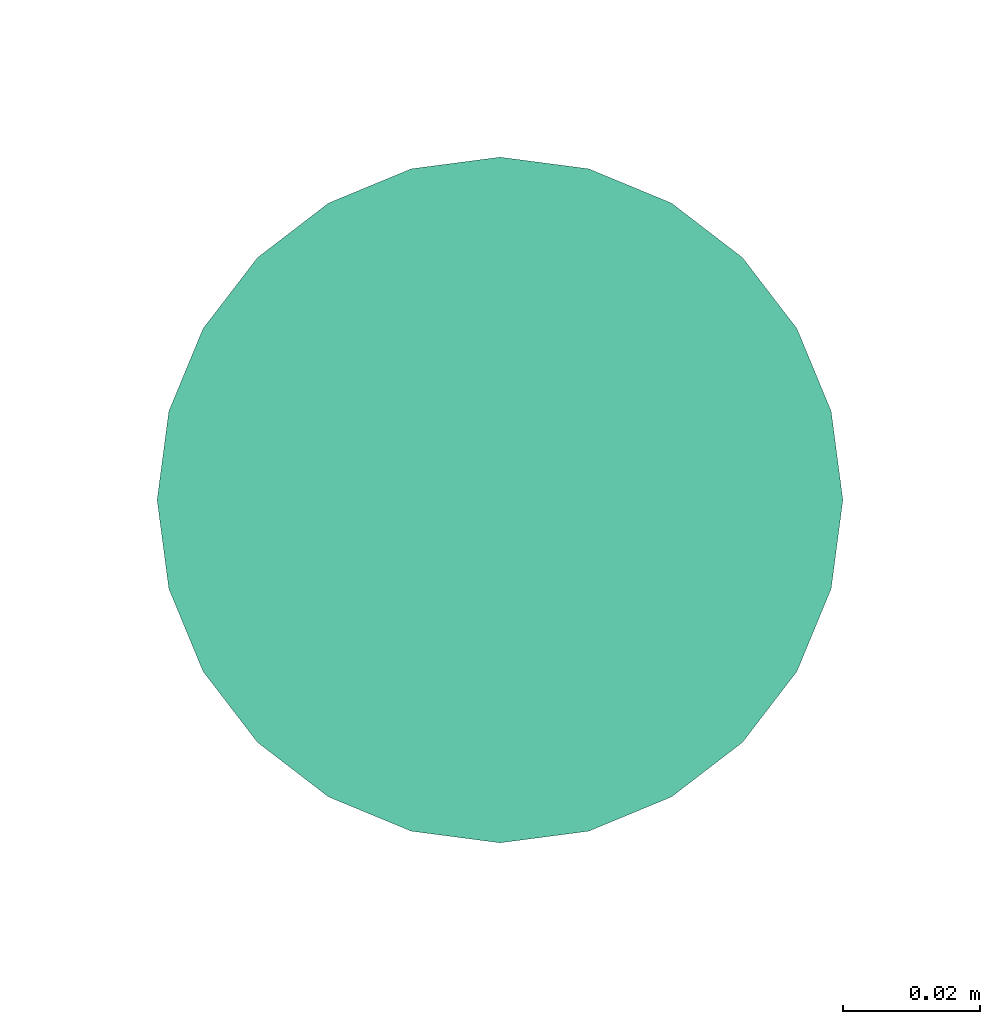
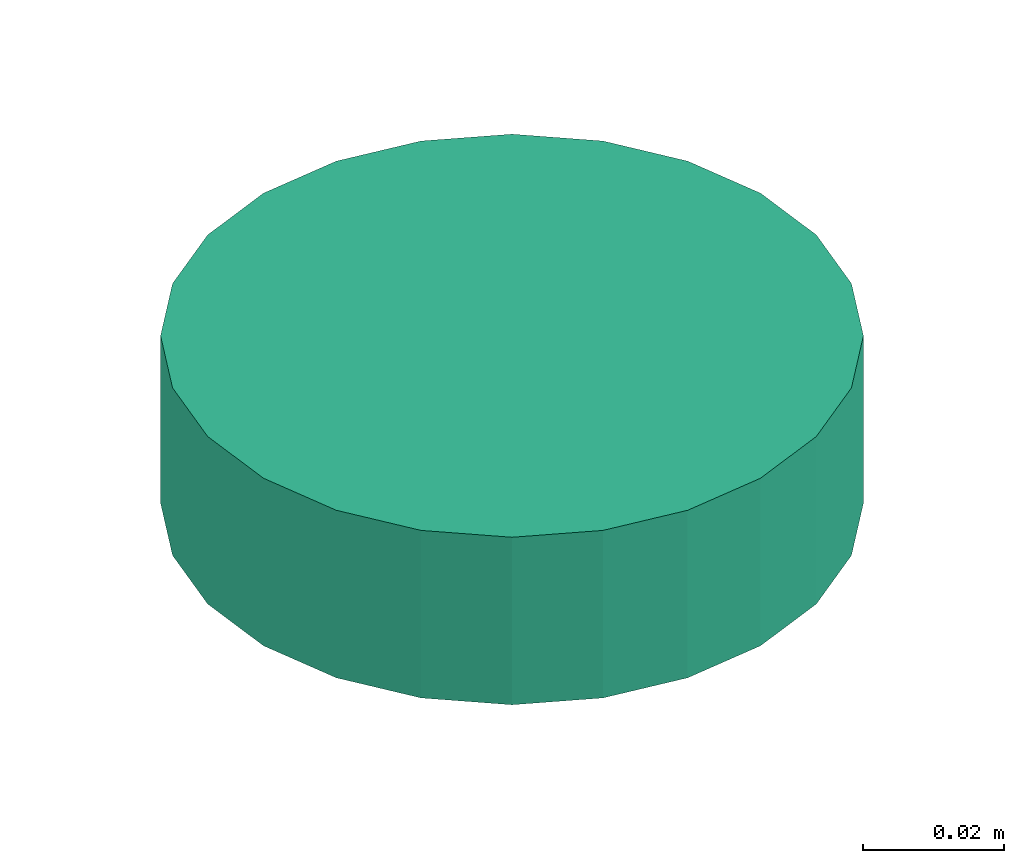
# One storey, part 7 of 22: 1 distribution control element.
"""IFC2X3 building model written with IfcOpenShell, lengths in millimetres."""

from ifc_helpers import new_model, entity, si_unit, converted_unit, derived_unit, direction, frame, origin_with_axes, place, context, subcontext, project, spatial, open_shell, surface_model, source, transform, mapped, type_object, element, save


model = new_model("IFC2X3")

# Units and contexts
model_context = context("Model", 3, precision=0.01, world=frame((0.0, 4.29681676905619e-09, 0.0)), true_north=direction((4.01073788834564e-13, 1.0)))
plan_context = context("Plan", 3, precision=0.01, world=frame((0.0, 4.29681676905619e-09, 0.0)), true_north=direction((4.01073788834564e-13, 1.0)))
body_context = subcontext(model_context, "Body", "Model", "MODEL_VIEW")
ifc_project = project(units=[converted_unit("PLANEANGLEUNIT", "DEGREE", entity("IfcPositiveLengthMeasure", 0.0174532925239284), si_unit("PLANEANGLEUNIT", "RADIAN"), dimensions=[0, 0, 0, 0, 0, 0, 0]), si_unit("AREAUNIT", "SQUARE_METRE"), si_unit("LENGTHUNIT", "METRE", prefix="MILLI"), si_unit("MASSUNIT", "GRAM", prefix="KILO"), si_unit("POWERUNIT", "WATT"), si_unit("PRESSUREUNIT", "PASCAL", prefix="KILO"), si_unit("FORCEUNIT", "NEWTON", prefix="KILO"), si_unit("ELECTRICVOLTAGEUNIT", "VOLT"), si_unit("ELECTRICCURRENTUNIT", "AMPERE"), si_unit("THERMODYNAMICTEMPERATUREUNIT", "DEGREE_CELSIUS"), si_unit("TIMEUNIT", "SECOND"), si_unit("VOLUMEUNIT", "CUBIC_METRE"), derived_unit("LINEARVELOCITYUNIT", [(si_unit("LENGTHUNIT", "METRE"), 1), (si_unit("TIMEUNIT", "SECOND"), -1)]), derived_unit("VOLUMETRICFLOWRATEUNIT", [(si_unit("VOLUMEUNIT", "CUBIC_METRE"), 1), (si_unit("TIMEUNIT", "SECOND"), -1)]), derived_unit("THERMALTRANSMITTANCEUNIT", [(si_unit("POWERUNIT", "WATT"), 1), (si_unit("THERMODYNAMICTEMPERATUREUNIT", "KELVIN"), -1), (si_unit("AREAUNIT", "SQUARE_METRE"), -1)]), derived_unit("SOUNDPRESSUREUNIT", [(si_unit("PRESSUREUNIT", "PASCAL"), 1)])], contexts=[model_context, plan_context])

# Site, building, storey
site_placement = place(None, frame((0.0, -4.29681676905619e-09, 0.0), z_axis=(0.0, 0.0, 1.0), x_axis=(1.0, 0.0, 0.0)))
site = spatial("IfcSite", under=ifc_project, at=site_placement, Name="ENGM", CompositionType="ELEMENT")
building_placement = place(site_placement, frame((0.0, 4.29681676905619e-09, 0.0), z_axis=(0.0, 0.0, 1.0), x_axis=(1.0, 0.0, 0.0)))
building = spatial("IfcBuilding", under=site, at=building_placement, Name="TI", CompositionType="ELEMENT")
storey_placement = place(building_placement, frame((0.0, 0.0, 210900.0), z_axis=(0.0, 0.0, 1.0), x_axis=(1.0, 0.0, 0.0)))
storey = spatial("IfcBuildingStorey", under=building, at=storey_placement, Name="Nivå F", CompositionType="ELEMENT", Elevation=210900.0)

# Distribution control element
alarm_type = type_object("IfcAlarmType", Name="Brannalarm Røykdetektor under gulv", PredefinedType="NOTDEFINED")
shared_shape = source(origin_with_axes(), body_context, "Body", "SurfaceModel", [
    surface_model("IfcShellBasedSurfaceModel", [(-25.0, 43.30127, -28.9), (-35.35534, 35.35534, -28.9), (-18.0, 31.17691, -28.9), (-25.45584, 25.45584, -28.9), (-9.31749, 34.77333, -28.9), (-12.94095, 48.29629, -28.9), (0.0, 36.0, -28.9), (0.0, 50.0, -28.9), (-34.77333, 9.31749, -28.9), (-43.30127, 25.0, -28.9), (-48.29629, 12.94095, -28.9), (-36.0, 0.0, -28.9), (-50.0, 0.0, -28.9), (-31.17691, 18.0, -28.9), (9.31749, 34.77333, -28.9), (12.94095, 48.29629, -28.9), (18.0, 31.17691, -28.9), (35.35534, 35.35534, -28.9), (25.0, 43.30127, -28.9), (25.45584, 25.45584, -28.9), (31.17691, 18.0, -28.9), (34.77333, 9.31749, -28.9), (43.30127, 25.0, -28.9), (48.29629, 12.94095, -28.9), (36.0, 0.0, -28.9), (50.0, 0.0, -28.9), (-34.77333, -9.31749, -28.9), (-48.29629, -12.94095, -28.9), (-31.17691, -18.0, -28.9), (-43.30127, -25.0, -28.9), (-25.45584, -25.45584, -28.9), (-35.35534, -35.35534, -28.9), (-18.0, -31.17691, -28.9), (-25.0, -43.30127, -28.9), (-9.31749, -34.77333, -28.9), (-12.94095, -48.29629, -28.9), (0.0, -36.0, -28.9), (0.0, -50.0, -28.9), (43.30127, -25.0, -28.9), (31.17691, -18.0, -28.9), (35.35534, -35.35534, -28.9), (34.77333, -9.31749, -28.9), (48.29629, -12.94095, -28.9), (25.45584, -25.45584, -28.9), (9.31749, -34.77333, -28.9), (12.94095, -48.29629, -28.9), (18.0, -31.17691, -28.9), (25.0, -43.30127, -28.9), (-25.0, -43.30127, -29.1), (-35.35534, -35.35534, -29.1), (-18.0, -31.17691, -29.1), (-25.45584, -25.45584, -29.1), (-9.31749, -34.77333, -29.1), (-12.94095, -48.29629, -29.1), (0.0, -36.0, -29.1), (0.0, -50.0, -29.1), (-34.77333, -9.31749, -29.1), (-43.30127, -25.0, -29.1), (-48.29629, -12.94095, -29.1), (-36.0, 0.0, -29.1), (-50.0, 0.0, -29.1), (-31.17691, -18.0, -29.1), (9.31749, -34.77333, -29.1), (12.94095, -48.29629, -29.1), (18.0, -31.17691, -29.1), (35.35534, -35.35534, -29.1), (25.0, -43.30127, -29.1), (25.45584, -25.45584, -29.1), (31.17691, -18.0, -29.1), (34.77333, -9.31749, -29.1), (43.30127, -25.0, -29.1), (48.29629, -12.94095, -29.1), (36.0, 0.0, -29.1), (50.0, 0.0, -29.1), (-34.77333, 9.31749, -29.1), (-48.29629, 12.94095, -29.1), (-31.17691, 18.0, -29.1), (-43.30127, 25.0, -29.1), (-25.45584, 25.45584, -29.1), (-35.35534, 35.35534, -29.1), (-18.0, 31.17691, -29.1), (-25.0, 43.30127, -29.1), (-9.31749, 34.77333, -29.1), (-12.94095, 48.29629, -29.1), (0.0, 36.0, -29.1), (0.0, 50.0, -29.1), (43.30127, 25.0, -29.1), (31.17691, 18.0, -29.1), (35.35534, 35.35534, -29.1), (34.77333, 9.31749, -29.1), (48.29629, 12.94095, -29.1), (25.45584, 25.45584, -29.1), (9.31749, 34.77333, -29.1), (12.94095, 48.29629, -29.1), (18.0, 31.17691, -29.1), (25.0, 43.30127, -29.1), (6.47048, -24.14815, -44.9), (12.5, -21.65064, -44.9), (17.67767, -17.67767, -44.9), (24.14815, -6.47048, -44.9), (-24.14815, -6.47048, -44.9), (21.65064, -12.5, -44.9), (-21.65064, 12.5, -44.9), (0.0, -25.0, -44.9), (-12.5, -21.65064, -44.9), (-6.47048, -24.14815, -44.9), (-17.67767, -17.67767, -44.9), (-21.65064, -12.5, -44.9), (25.0, 0.0, -44.9), (24.14815, 6.47048, -44.9), (21.65064, 12.5, -44.9), (17.67767, 17.67767, -44.9), (12.5, 21.65064, -44.9), (6.47048, 24.14815, -44.9), (0.0, 25.0, -44.9), (-25.0, 0.0, -44.9), (-24.14815, 6.47048, -44.9), (-12.5, 21.65064, -44.9), (-17.67767, 17.67767, -44.9), (-6.47048, 24.14815, -44.9), (0.0, 25.0, -45.1), (6.47048, 24.14815, -45.1), (12.5, 21.65064, -45.1), (-21.65064, 12.5, -45.1), (17.67767, 17.67767, -45.1), (21.65064, 12.5, -45.1), (24.14815, 6.47048, -45.1), (-12.5, 21.65064, -45.1), (-17.67767, 17.67767, -45.1), (-6.47048, 24.14815, -45.1), (-25.0, 0.0, -45.1), (-24.14815, 6.47048, -45.1), (-24.14815, -6.47048, -45.1), (24.14815, -6.47048, -45.1), (6.47048, -24.14815, -45.1), (21.65064, -12.5, -45.1), (17.67767, -17.67767, -45.1), (12.5, -21.65064, -45.1), (-12.5, -21.65064, -45.1), (-17.67767, -17.67767, -45.1), (-21.65064, -12.5, -45.1), (0.0, -25.0, -45.1), (-6.47048, -24.14815, -45.1), (25.0, 0.0, -45.1), (-1.46739, 34.60682, -29.0), (0.0, 34.8, -29.0), (0.0, 35.0, -29.0), (-34.60682, 1.46739, -29.0), (-35.0, 0.0, -29.0), (-34.8, 0.0, -29.0), (-17.5, 30.31089, -29.0), (-18.5742, 29.23669, -29.0), (-17.4, 30.13768, -29.0), (-24.60732, -24.60732, -29.0), (-18.5742, -29.23669, -29.0), (-29.23669, -18.5742, -29.0), (34.8, 0.0, -29.0), (34.60682, -1.46739, -29.0), (35.0, 0.0, -29.0), (17.4, 30.13768, -29.0), (17.5, 30.31089, -29.0), (16.03261, 30.70407, -29.0), (30.13768, 17.4, -29.0), (30.31089, 17.5, -29.0), (29.23669, 18.5742, -29.0), (34.60682, 1.46739, -29.0), (33.61422, -9.0069, -29.0), (30.70407, -16.03261, -29.0), (-33.61422, -9.0069, -29.0), (-30.70407, -16.03261, -29.0), (-34.60682, -1.46739, -29.0), (-30.13768, -17.4, -29.0), (-30.31089, -17.5, -29.0), (-17.5, -30.31089, -29.0), (-17.4, -30.13768, -29.0), (-1.46739, -34.60682, -29.0), (0.0, -35.0, -29.0), (0.0, -34.8, -29.0), (-16.03261, -30.70407, -29.0), (-9.0069, -33.61422, -29.0), (1.46739, -34.60682, -29.0), (30.13768, -17.4, -29.0), (29.23669, -18.5742, -29.0), (30.31089, -17.5, -29.0), (24.60732, -24.60732, -29.0), (18.5742, -29.23669, -29.0), (9.0069, -33.61422, -29.0), (16.03261, -30.70407, -29.0), (-30.13768, 17.4, -29.0), (-30.31089, 17.5, -29.0), (-30.70407, 16.03261, -29.0), (17.4, -30.13768, -29.0), (17.5, -30.31089, -29.0), (-33.61422, 9.0069, -29.0), (-29.23669, 18.5742, -29.0), (-24.60732, 24.60732, -29.0), (-16.03261, 30.70407, -29.0), (-9.0069, 33.61422, -29.0), (1.46739, 34.60682, -29.0), (9.0069, 33.61422, -29.0), (18.5742, 29.23669, -29.0), (24.60732, 24.60732, -29.0), (30.70407, 16.03261, -29.0), (33.61422, 9.0069, -29.0), (23.00389, 18.55381, -38.25), (14.9, 25.80756, -38.25), (21.07178, 21.07178, -38.25), (29.66376, 1.03484, -38.25), (30.0, 0.0, -38.25), (29.8, 0.0, -38.25), (24.27051, 17.63356, -38.25), (24.68215, 16.36666, -38.25), (10.52665, 27.61906, -38.25), (28.78459, 7.71281, -38.25), (-10.52665, 27.61906, -38.25), (-23.00389, 18.55381, -38.25), (-14.9, 25.80756, -38.25), (8.32335, 28.5317, -38.25), (0.0, 29.8, -38.25), (7.71281, 28.78459, -38.25), (-8.32335, 28.5317, -38.25), (-24.68215, 16.36666, -38.25), (-28.78459, 7.71281, -38.25), (-25.80756, 14.9, -38.25), (-9.27051, 28.5317, -38.25), (-29.66376, 1.03484, -38.25), (-29.8, 0.0, -38.25), (-30.0, 0.0, -38.25), (-28.78459, -7.71281, -38.25), (-24.68215, -16.36666, -38.25), (-25.80756, -14.9, -38.25), (29.66376, -1.03484, -38.25), (-7.71281, 28.78459, -38.25), (25.80756, 14.9, -38.25), (14.9, -25.80756, -38.25), (10.52665, -27.61906, -38.25), (23.00389, -18.55381, -38.25), (28.78459, -7.71281, -38.25), (24.68215, -16.36666, -38.25), (0.0, -29.8, -38.25), (-7.71281, -28.78459, -38.25), (-8.32335, -28.5317, -38.25), (8.32335, -28.5317, -38.25), (9.27051, 28.5317, -38.25), (-29.66376, -1.03484, -38.25), (21.07178, -21.07178, -38.25), (-23.00389, -18.55381, -38.25), (-24.27051, -17.63356, -38.25), (-9.27051, -28.5317, -38.25), (-10.52665, -27.61906, -38.25), (-21.07178, -21.07178, -38.25), (-14.9, -25.80756, -38.25), (9.27051, -28.5317, -38.25), (7.71281, -28.78459, -38.25), (24.27051, -17.63356, -38.25), (25.80756, -14.9, -38.25), (-21.07178, 21.07178, -38.25), (-24.27051, 17.63356, -38.25), (33.28589, -6.39713, -29.0), (27.13526, -8.81678, -38.25), (-16.77051, -23.08263, -38.25), (-23.90544, -23.90544, -29.0), (-27.13526, -8.81678, -38.25), (-33.28589, -6.39713, -29.0), (16.77051, -23.08263, -38.25), (8.75, -32.65544, -29.0), (0.0, -28.5317, -38.25), (23.90544, -23.90544, -29.0), (-8.75, -32.65544, -29.0), (-33.28589, 6.39713, -29.0), (-27.13526, 8.81678, -38.25), (16.77051, 23.08263, -38.25), (23.90544, 23.90544, -29.0), (27.13526, 8.81678, -38.25), (33.28589, 6.39713, -29.0), (-16.77051, 23.08263, -38.25), (-8.75, 32.65544, -29.0), (0.0, 28.5317, -38.25), (-23.90544, 23.90544, -29.0), (8.75, 32.65544, -29.0), (12.4, 21.47743, -45.0), (17.53625, 17.53625, -45.0), (19.07577, 15.5299, -45.0), (20.22543, 14.69463, -45.0), (20.59905, 13.54472, -45.0), (24.66376, 1.03484, -45.0), (25.0, 0.0, -45.0), (24.8, 0.0, -45.0), (8.88673, 22.93267, -45.0), (23.95496, 6.41871, -45.0), (-8.88673, 22.93267, -45.0), (-19.07577, 15.5299, -45.0), (-12.4, 21.47743, -45.0), (6.84976, 23.77641, -45.0), (0.0, 24.8, -45.0), (6.41871, 23.95496, -45.0), (-7.72542, 23.77641, -45.0), (-6.84976, 23.77641, -45.0), (-21.47743, 12.4, -45.0), (-20.59905, 13.54472, -45.0), (-23.95496, 6.41871, -45.0), (-25.0, 0.0, -45.0), (-24.66376, 1.03484, -45.0), (-24.8, 0.0, -45.0), (-23.95496, -6.41871, -45.0), (-20.59905, -13.54472, -45.0), (-21.47743, -12.4, -45.0), (-6.41871, 23.95496, -45.0), (24.66376, -1.03484, -45.0), (21.47743, 12.4, -45.0), (12.4, -21.47743, -45.0), (8.88673, -22.93267, -45.0), (19.07577, -15.5299, -45.0), (23.95496, -6.41871, -45.0), (20.59905, -13.54472, -45.0), (0.0, -24.8, -45.0), (-6.41871, -23.95496, -45.0), (-6.84976, -23.77641, -45.0), (7.72542, -23.77641, -45.0), (6.84976, -23.77641, -45.0), (7.72542, 23.77641, -45.0), (-24.66376, -1.03484, -45.0), (17.53625, -17.53625, -45.0), (-20.22543, -14.69463, -45.0), (-19.07577, -15.5299, -45.0), (-8.88673, -22.93267, -45.0), (-7.72542, -23.77641, -45.0), (-17.53625, -17.53625, -45.0), (-12.4, -21.47743, -45.0), (6.41871, -23.95496, -45.0), (20.22543, -14.69463, -45.0), (21.47743, -12.4, -45.0), (-17.53625, 17.53625, -45.0), (-20.22543, 14.69463, -45.0), (-22.61271, -7.34732, -45.0), (-13.97542, -19.23552, -45.0), (0.0, -23.77641, -45.0), (21.83768, -9.73262, -45.0), (13.97542, -19.23552, -45.0), (23.41884, -4.86631, -45.0), (22.61271, 7.34732, -45.0), (13.97542, 19.23552, -45.0), (0.0, 23.77641, -45.0), (-21.83768, 9.73262, -45.0), (-13.97542, 19.23552, -45.0), (-23.41884, 4.86631, -45.0), (12.94095, -48.29629, 0.0), (25.0, -43.30127, 0.0), (35.35534, -35.35534, 0.0), (48.29629, -12.94095, 0.0), (-48.29629, -12.94095, 0.0), (43.30127, -25.0, 0.0), (-43.30127, 25.0, 0.0), (0.0, -50.0, 0.0), (-25.0, -43.30127, 0.0), (-12.94095, -48.29629, 0.0), (-35.35534, -35.35534, 0.0), (-43.30127, -25.0, 0.0), (50.0, 0.0, 0.0), (48.29629, 12.94095, 0.0), (43.30127, 25.0, 0.0), (35.35534, 35.35534, 0.0), (25.0, 43.30127, 0.0), (12.94095, 48.29629, 0.0), (0.0, 50.0, 0.0), (-50.0, 0.0, 0.0), (-48.29629, 12.94095, 0.0), (-25.0, 43.30127, 0.0), (-35.35534, 35.35534, 0.0), (-12.94095, 48.29629, 0.0), (0.0, 50.0, -29.0), (12.94095, 48.29629, -29.0), (25.0, 43.30127, -29.0), (-43.30127, 25.0, -29.0), (35.35534, 35.35534, -29.0), (43.30127, 25.0, -29.0), (48.29629, 12.94095, -29.0), (-25.0, 43.30127, -29.0), (-35.35534, 35.35534, -29.0), (-12.94095, 48.29629, -29.0), (-50.0, 0.0, -29.0), (-48.29629, 12.94095, -29.0), (-48.29629, -12.94095, -29.0), (48.29629, -12.94095, -29.0), (12.94095, -48.29629, -29.0), (43.30127, -25.0, -29.0), (35.35534, -35.35534, -29.0), (25.0, -43.30127, -29.0), (-25.0, -43.30127, -29.0), (-35.35534, -35.35534, -29.0), (-43.30127, -25.0, -29.0), (0.0, -50.0, -29.0), (-12.94095, -48.29629, -29.0), (50.0, 0.0, -29.0)], [open_shell([[[0, 1, 2]], [[2, 1, 3]], [[0, 2, 4]], [[5, 4, 6]], [[4, 5, 0]], [[5, 6, 7]], [[8, 9, 10]], [[11, 10, 12]], [[8, 10, 11]], [[13, 3, 9]], [[8, 13, 9]], [[9, 3, 1]], [[7, 14, 15]], [[14, 7, 6]], [[15, 14, 16]], [[17, 18, 19]], [[16, 18, 15]], [[19, 18, 16]], [[20, 21, 22]], [[20, 22, 17]], [[21, 23, 22]], [[23, 21, 24]], [[23, 24, 25]], [[20, 17, 19]], [[26, 12, 27]], [[28, 27, 29]], [[28, 26, 27]], [[30, 28, 29]], [[29, 31, 30]], [[32, 31, 33]], [[31, 32, 30]], [[32, 33, 34]], [[34, 35, 36]], [[35, 34, 33]], [[36, 35, 37]], [[38, 39, 40]], [[41, 39, 42]], [[41, 42, 25]], [[42, 39, 38]], [[39, 43, 40]], [[25, 24, 41]], [[44, 37, 45]], [[37, 44, 36]], [[44, 45, 46]], [[47, 40, 43]], [[47, 46, 45]], [[47, 43, 46]], [[26, 11, 12]], [[48, 49, 50]], [[50, 49, 51]], [[48, 50, 52]], [[53, 52, 54]], [[52, 53, 48]], [[53, 54, 55]], [[56, 57, 58]], [[59, 58, 60]], [[56, 58, 59]], [[61, 51, 57]], [[56, 61, 57]], [[57, 51, 49]], [[55, 62, 63]], [[62, 55, 54]], [[63, 62, 64]], [[65, 66, 67]], [[64, 66, 63]], [[67, 66, 64]], [[68, 69, 70]], [[68, 70, 65]], [[69, 71, 70]], [[71, 69, 72]], [[71, 72, 73]], [[68, 65, 67]], [[74, 60, 75]], [[76, 75, 77]], [[76, 74, 75]], [[78, 76, 77]], [[77, 79, 78]], [[80, 79, 81]], [[79, 80, 78]], [[80, 81, 82]], [[82, 83, 84]], [[83, 82, 81]], [[84, 83, 85]], [[86, 87, 88]], [[89, 87, 90]], [[89, 90, 73]], [[90, 87, 86]], [[87, 91, 88]], [[73, 72, 89]], [[92, 85, 93]], [[85, 92, 84]], [[92, 93, 94]], [[95, 88, 91]], [[95, 94, 93]], [[95, 91, 94]], [[74, 59, 60]], [[11, 59, 8]], [[8, 74, 13]], [[2, 3, 78]], [[76, 3, 13]], [[4, 2, 80]], [[74, 76, 13]], [[8, 59, 74]], [[84, 6, 82]], [[4, 80, 82]], [[80, 2, 78]], [[3, 76, 78]], [[4, 82, 6]], [[14, 92, 16]], [[16, 94, 19]], [[21, 20, 87]], [[91, 20, 19]], [[24, 21, 89]], [[92, 94, 16]], [[14, 84, 92]], [[21, 87, 89]], [[87, 20, 91]], [[19, 94, 91]], [[24, 89, 72]], [[6, 84, 14]], [[24, 72, 41]], [[41, 69, 39]], [[46, 43, 67]], [[68, 43, 39]], [[44, 46, 64]], [[69, 68, 39]], [[41, 72, 69]], [[54, 36, 62]], [[44, 64, 62]], [[64, 46, 67]], [[43, 68, 67]], [[44, 62, 36]], [[34, 52, 32]], [[32, 50, 30]], [[26, 28, 61]], [[51, 28, 30]], [[11, 26, 56]], [[52, 50, 32]], [[34, 54, 52]], [[26, 61, 56]], [[61, 28, 51]], [[30, 50, 51]], [[11, 56, 59]], [[36, 54, 34]], [[58, 27, 60]], [[57, 29, 58]], [[33, 49, 48]], [[57, 49, 31]], [[35, 48, 53]], [[58, 29, 27]], [[27, 12, 60]], [[35, 33, 48]], [[31, 49, 33]], [[31, 29, 57]], [[37, 35, 53]], [[53, 55, 37]], [[63, 45, 55]], [[66, 47, 63]], [[38, 65, 70]], [[66, 65, 40]], [[42, 70, 71]], [[66, 40, 47]], [[47, 45, 63]], [[25, 42, 71]], [[38, 70, 42]], [[38, 40, 65]], [[73, 25, 71]], [[55, 45, 37]], [[90, 23, 73]], [[86, 22, 90]], [[18, 88, 95]], [[86, 88, 17]], [[15, 95, 93]], [[90, 22, 23]], [[23, 25, 73]], [[15, 18, 95]], [[17, 88, 18]], [[17, 22, 86]], [[7, 15, 93]], [[93, 85, 7]], [[83, 5, 85]], [[81, 0, 83]], [[9, 79, 77]], [[81, 79, 1]], [[10, 77, 75]], [[81, 1, 0]], [[0, 5, 83]], [[12, 10, 75]], [[9, 77, 10]], [[9, 1, 79]], [[60, 12, 75]], [[85, 5, 7]], [[96, 97, 98]], [[96, 98, 99]], [[96, 99, 100]], [[99, 98, 101]], [[102, 100, 99]], [[103, 104, 105]], [[103, 96, 104]], [[106, 100, 107]], [[106, 104, 96]], [[100, 106, 96]], [[99, 108, 102]], [[109, 110, 111]], [[109, 111, 112]], [[112, 113, 114]], [[109, 112, 102]], [[102, 112, 114]], [[115, 102, 116]], [[100, 102, 115]], [[102, 117, 118]], [[117, 102, 119]], [[114, 119, 102]], [[102, 108, 109]], [[120, 121, 122]], [[123, 120, 122]], [[124, 125, 126]], [[124, 126, 122]], [[123, 122, 126]], [[127, 123, 128]], [[123, 127, 129]], [[123, 130, 131]], [[123, 129, 120]], [[123, 132, 130]], [[123, 126, 133]], [[132, 123, 133]], [[134, 133, 135]], [[136, 137, 134]], [[136, 134, 135]], [[138, 133, 134]], [[132, 139, 140]], [[132, 133, 139]], [[138, 141, 142]], [[139, 133, 138]], [[134, 141, 138]], [[133, 126, 143]], [[132, 100, 130]], [[140, 107, 132]], [[104, 139, 138]], [[140, 139, 106]], [[105, 138, 142]], [[132, 107, 100]], [[100, 115, 130]], [[105, 104, 138]], [[106, 139, 104]], [[106, 107, 140]], [[103, 105, 142]], [[142, 141, 103]], [[134, 96, 141]], [[137, 97, 134]], [[101, 136, 135]], [[137, 136, 98]], [[99, 135, 133]], [[137, 98, 97]], [[97, 96, 134]], [[108, 99, 133]], [[101, 135, 99]], [[101, 98, 136]], [[143, 108, 133]], [[141, 96, 103]], [[126, 109, 143]], [[125, 110, 126]], [[112, 124, 122]], [[125, 124, 111]], [[113, 122, 121]], [[126, 110, 109]], [[109, 108, 143]], [[113, 112, 122]], [[111, 124, 112]], [[111, 110, 125]], [[114, 113, 121]], [[121, 120, 114]], [[129, 119, 120]], [[127, 117, 129]], [[102, 128, 123]], [[127, 128, 118]], [[116, 123, 131]], [[127, 118, 117]], [[117, 119, 129]], [[115, 116, 131]], [[102, 123, 116]], [[102, 118, 128]], [[130, 115, 131]], [[120, 119, 114]], [[144, 145, 146]], [[147, 148, 149]], [[150, 151, 152]], [[153, 154, 155]], [[156, 157, 158]], [[159, 160, 161]], [[162, 163, 164]], [[156, 158, 165]], [[166, 157, 167]], [[168, 169, 170]], [[170, 149, 148]], [[171, 169, 172]], [[173, 174, 154]], [[175, 176, 177]], [[174, 173, 178]], [[155, 171, 172]], [[179, 175, 178]], [[180, 177, 176]], [[181, 182, 183]], [[181, 183, 167]], [[184, 182, 185]], [[186, 187, 180]], [[188, 189, 190]], [[191, 192, 185]], [[191, 187, 192]], [[193, 147, 190]], [[188, 194, 189]], [[195, 194, 151]], [[152, 196, 150]], [[197, 196, 144]], [[145, 198, 146]], [[199, 198, 161]], [[159, 200, 160]], [[201, 200, 164]], [[162, 202, 163]], [[203, 202, 165]], [[204, 205, 206]], [[207, 208, 209]], [[204, 210, 211]], [[205, 204, 212]], [[213, 207, 211]], [[214, 215, 216]], [[217, 218, 219]], [[218, 217, 220]], [[221, 222, 223]], [[220, 214, 224]], [[225, 226, 227]], [[228, 229, 230]], [[209, 208, 231]], [[218, 220, 232]], [[213, 211, 233]], [[234, 235, 236]], [[237, 238, 231]], [[239, 240, 241]], [[241, 242, 239]], [[243, 212, 217]], [[227, 226, 244]], [[234, 236, 245]], [[229, 246, 247]], [[241, 248, 249]], [[250, 246, 251]], [[228, 244, 229]], [[235, 252, 242]], [[239, 242, 253]], [[236, 238, 254]], [[238, 237, 255]], [[251, 246, 249]], [[216, 215, 256]], [[215, 221, 257]], [[222, 221, 225]], [[208, 158, 258]], [[183, 259, 258]], [[260, 261, 247]], [[172, 262, 247]], [[263, 227, 262]], [[192, 252, 264]], [[260, 248, 173]], [[261, 260, 173]], [[252, 265, 266]], [[227, 263, 148]], [[172, 263, 262]], [[258, 259, 208]], [[254, 267, 264]], [[268, 173, 248]], [[252, 192, 265]], [[192, 264, 267]], [[267, 254, 183]], [[259, 183, 254]], [[268, 266, 176]], [[265, 176, 266]], [[248, 266, 268]], [[172, 247, 261]], [[227, 148, 269]], [[189, 270, 269]], [[271, 272, 210]], [[163, 273, 210]], [[274, 208, 273]], [[150, 224, 275]], [[271, 243, 160]], [[272, 271, 160]], [[224, 276, 277]], [[208, 274, 158]], [[163, 274, 273]], [[269, 270, 227]], [[257, 278, 275]], [[279, 160, 243]], [[224, 150, 276]], [[150, 275, 278]], [[278, 257, 189]], [[270, 189, 257]], [[279, 277, 146]], [[276, 146, 277]], [[243, 277, 279]], [[163, 210, 272]], [[171, 230, 228]], [[168, 228, 226]], [[179, 240, 251]], [[174, 251, 250]], [[153, 250, 230]], [[168, 171, 228]], [[226, 149, 168]], [[251, 174, 179]], [[174, 250, 153]], [[230, 171, 153]], [[240, 179, 177]], [[177, 239, 240]], [[184, 245, 234]], [[191, 234, 253]], [[156, 209, 237]], [[166, 237, 255]], [[181, 255, 245]], [[239, 186, 253]], [[186, 191, 253]], [[177, 186, 239]], [[184, 181, 245]], [[191, 184, 234]], [[181, 166, 255]], [[166, 156, 237]], [[162, 233, 213]], [[203, 213, 209]], [[199, 219, 205]], [[159, 205, 206]], [[201, 206, 233]], [[203, 162, 213]], [[209, 156, 203]], [[205, 159, 199]], [[159, 206, 201]], [[233, 162, 201]], [[219, 199, 145]], [[145, 218, 219]], [[195, 256, 216]], [[152, 216, 232]], [[149, 226, 222]], [[193, 222, 223]], [[188, 223, 256]], [[218, 197, 232]], [[197, 152, 232]], [[145, 197, 218]], [[195, 188, 256]], [[152, 195, 216]], [[188, 193, 223]], [[193, 149, 222]], [[215, 216, 256]], [[221, 222, 225]], [[225, 227, 226]], [[257, 221, 215]], [[216, 215, 214]], [[212, 204, 205]], [[220, 218, 232]], [[218, 220, 217]], [[217, 212, 243]], [[233, 211, 213]], [[208, 207, 209]], [[237, 238, 255]], [[252, 235, 242]], [[218, 217, 219]], [[227, 244, 226]], [[222, 221, 223]], [[228, 229, 244]], [[239, 253, 242]], [[246, 251, 249]], [[249, 248, 241]], [[231, 238, 237]], [[208, 209, 231]], [[251, 246, 250]], [[254, 238, 236]], [[236, 234, 245]], [[214, 220, 224]], [[242, 241, 239]], [[239, 241, 240]], [[246, 229, 247]], [[230, 229, 228]], [[234, 236, 235]], [[205, 204, 206]], [[204, 211, 210]], [[213, 211, 207]], [[280, 281, 282]], [[282, 283, 284]], [[285, 286, 287]], [[280, 282, 288]], [[289, 285, 284]], [[290, 291, 292]], [[293, 294, 295]], [[290, 296, 297]], [[294, 293, 297]], [[298, 299, 300]], [[301, 302, 303]], [[304, 305, 306]], [[294, 297, 307]], [[308, 287, 286]], [[289, 284, 309]], [[310, 311, 312]], [[313, 314, 308]], [[315, 316, 317]], [[311, 318, 319]], [[293, 320, 288]], [[301, 303, 321]], [[310, 312, 322]], [[323, 305, 324]], [[325, 317, 326]], [[327, 324, 328]], [[304, 321, 305]], [[317, 319, 315]], [[315, 319, 329]], [[312, 314, 330]], [[331, 314, 313]], [[328, 324, 325]], [[292, 291, 332]], [[291, 299, 333]], [[300, 299, 302]], [[262, 301, 334]], [[334, 323, 247]], [[248, 335, 326]], [[301, 262, 227]], [[334, 247, 262]], [[260, 323, 335]], [[266, 248, 326]], [[336, 252, 266]], [[252, 336, 318]], [[323, 260, 247]], [[248, 260, 335]], [[254, 337, 259]], [[318, 264, 252]], [[338, 254, 264]], [[339, 286, 208]], [[264, 318, 338]], [[259, 339, 208]], [[338, 330, 254]], [[266, 326, 336]], [[259, 337, 339]], [[337, 254, 330]], [[273, 286, 340]], [[340, 283, 210]], [[243, 341, 320]], [[286, 273, 208]], [[340, 210, 273]], [[271, 283, 341]], [[277, 243, 320]], [[342, 224, 277]], [[224, 342, 296]], [[283, 271, 210]], [[243, 271, 341]], [[257, 343, 270]], [[296, 275, 224]], [[344, 257, 275]], [[345, 301, 227]], [[275, 296, 344]], [[270, 345, 227]], [[344, 333, 257]], [[277, 320, 342]], [[270, 343, 345]], [[343, 257, 333]], [[230, 306, 304]], [[228, 304, 303]], [[240, 316, 328]], [[251, 328, 327]], [[250, 327, 306]], [[228, 230, 304]], [[303, 226, 228]], [[328, 251, 240]], [[251, 327, 250]], [[306, 230, 250]], [[316, 240, 239]], [[239, 315, 316]], [[245, 322, 310]], [[234, 310, 329]], [[209, 287, 313]], [[237, 313, 331]], [[255, 331, 322]], [[315, 253, 329]], [[253, 234, 329]], [[239, 253, 315]], [[255, 322, 245]], [[234, 245, 310]], [[331, 255, 237]], [[237, 209, 313]], [[233, 309, 289]], [[213, 289, 287]], [[219, 295, 280]], [[205, 280, 281]], [[206, 281, 309]], [[213, 233, 289]], [[287, 209, 213]], [[280, 205, 219]], [[205, 281, 206]], [[309, 233, 206]], [[295, 219, 218]], [[218, 294, 295]], [[256, 332, 292]], [[216, 292, 307]], [[226, 303, 300]], [[222, 300, 298]], [[223, 298, 332]], [[294, 232, 307]], [[232, 216, 307]], [[218, 232, 294]], [[223, 332, 256]], [[216, 256, 292]], [[298, 223, 222]], [[222, 226, 300]], [[346, 347, 348]], [[346, 348, 349]], [[346, 349, 350]], [[349, 348, 351]], [[352, 350, 349]], [[353, 354, 355]], [[353, 346, 354]], [[356, 350, 357]], [[356, 354, 346]], [[350, 356, 346]], [[349, 358, 352]], [[359, 360, 361]], [[359, 361, 362]], [[362, 363, 364]], [[359, 362, 352]], [[352, 362, 364]], [[365, 352, 366]], [[350, 352, 365]], [[352, 367, 368]], [[367, 352, 369]], [[364, 369, 352]], [[352, 358, 359]], [[370, 371, 372]], [[373, 370, 372]], [[374, 375, 376]], [[374, 376, 372]], [[373, 372, 376]], [[377, 373, 378]], [[373, 377, 379]], [[373, 380, 381]], [[373, 379, 370]], [[373, 382, 380]], [[373, 376, 383]], [[382, 373, 383]], [[384, 383, 385]], [[386, 387, 384]], [[386, 384, 385]], [[388, 383, 384]], [[382, 389, 390]], [[382, 383, 389]], [[388, 391, 392]], [[389, 383, 388]], [[384, 391, 388]], [[383, 376, 393]], [[382, 350, 380]], [[390, 357, 382]], [[354, 389, 388]], [[390, 389, 356]], [[355, 388, 392]], [[382, 357, 350]], [[350, 365, 380]], [[355, 354, 388]], [[356, 389, 354]], [[356, 357, 390]], [[353, 355, 392]], [[392, 391, 353]], [[384, 346, 391]], [[387, 347, 384]], [[351, 386, 385]], [[387, 386, 348]], [[349, 385, 383]], [[387, 348, 347]], [[347, 346, 384]], [[358, 349, 383]], [[351, 385, 349]], [[351, 348, 386]], [[393, 358, 383]], [[391, 346, 353]], [[376, 359, 393]], [[375, 360, 376]], [[362, 374, 372]], [[375, 374, 361]], [[363, 372, 371]], [[376, 360, 359]], [[359, 358, 393]], [[363, 362, 372]], [[361, 374, 362]], [[361, 360, 375]], [[364, 363, 371]], [[371, 370, 364]], [[369, 370, 379]], [[367, 379, 377]], [[352, 373, 381]], [[366, 381, 380]], [[379, 367, 369]], [[367, 377, 378]], [[367, 378, 368]], [[368, 378, 352]], [[352, 378, 373]], [[352, 381, 366]], [[380, 365, 366]], [[370, 369, 364]]])]),
])
distribution_control_element_placement = place(storey_placement, frame((589934.7764, 571609.90316, -70.0), z_axis=(0.0, 0.0, 1.0), x_axis=(1.0, 0.0, 0.0)))
element("IfcDistributionControlElement", 1, at=distribution_control_element_placement, inside=storey, type_object=alarm_type, Name="Brannalarm Røykdetektor under gulv", context=body_context, shape_type="MappedRepresentation", body=[
    mapped(shared_shape, transform((0.0, 0.0, 0.0), scale=1.0)),
])

save(model, "model.ifc")
